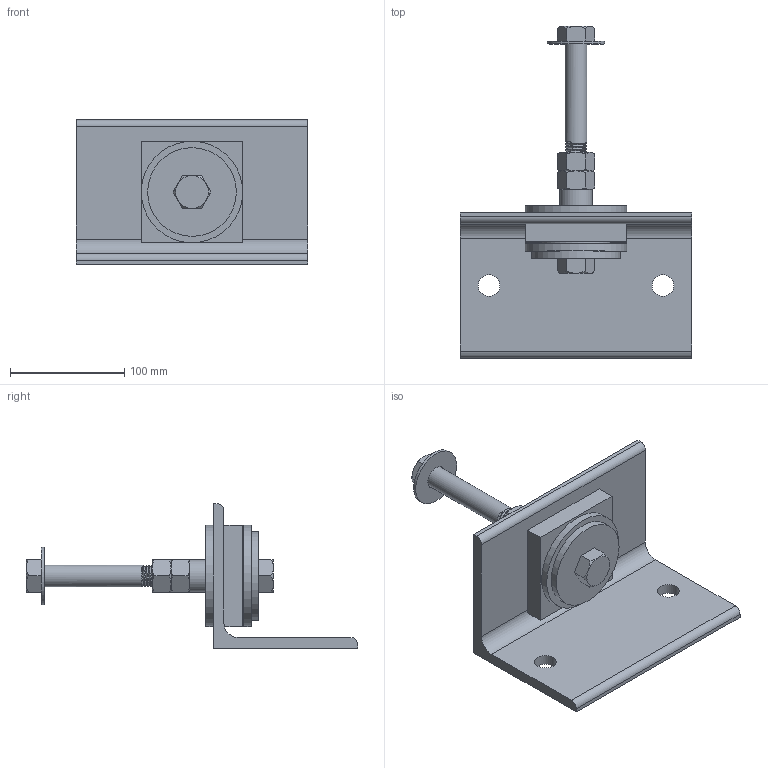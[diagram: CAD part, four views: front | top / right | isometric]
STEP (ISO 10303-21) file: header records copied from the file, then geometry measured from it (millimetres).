
FILE_DESCRIPTION((''),'2;1');
FILE_NAME('C:\2012_Work\Designs\Z-1225\Z-1225-1000\A-31444 Z-1225-1000.stp','2013-10-02T14:50:55',('KShiels'),(''),'Autodesk Inventor 2012','Autodesk Inventor 2012','');
FILE_SCHEMA(('AUTOMOTIVE_DESIGN { 1 0 10303 214 1 1 1 1 }'));
Length unit declared in the file: inch
Products named in the file (11): A-31444 Z-1225-1000; A-31445 ANGLE ASSY; A-31445 ANGLE PLATE; A-31445 ANGLE; A-31446 TAPPED SLEEVE; A-31446 0.75 x 1.50 in BOLT; A-31446 3.0625 OD WASHER; A-31446 BUSHING; A-31446 0.75 x 6in BOLT; Hex Nut - Inch 3/4 - 10; Plain Washer (Inch) 3/4 - Regular - Type B
Assembly tree (11 placements, depth 3):
  A-31444 Z-1225-1000
    A-31445 ANGLE ASSY
      A-31445 ANGLE PLATE
      A-31445 ANGLE
    A-31446 TAPPED SLEEVE
    A-31446 0.75 x 1.50 in BOLT
    A-31446 3.0625 OD WASHER
    A-31446 BUSHING
    A-31446 0.75 x 6in BOLT
    Hex Nut - Inch 3/4 - 10  x2
    Plain Washer (Inch) 3/4 - Regular - Type B
Bounding box: 203.2 x 291.02 x 127 mm (x, y, z)
Volume: 746500.6 mm3; surface area: 199315.1 mm2
Topology: 10 solids, 10 shells, 157 faces, 372 edges, 239 vertices
Faces by surface type: plane 62, cylinder 59, cone 32, bspline 4
Full cylindrical faces by diameter (mm): 16.002 x1, 16.307 x2, 19.05 x40, 19.844 x1, 20.625 x1, 28.575 x1, 47.625 x1, 50.8 x1, 60.325 x1, 61.913 x2, 77.788 x1, 88.9 x2
Entity records: 9164 total; most frequent: CARTESIAN_POINT 6905, DIRECTION 421, ORIENTED_EDGE 354, EDGE_CURVE 177, AXIS2_PLACEMENT_3D 176, EDGE_LOOP 141, VERTEX_POINT 126, FACE_OUTER_BOUND 96
